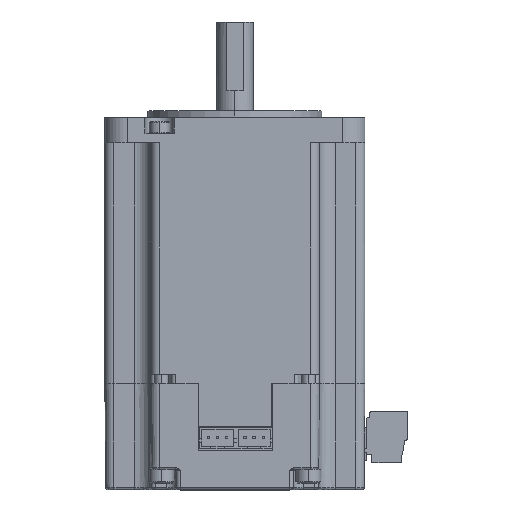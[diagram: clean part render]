
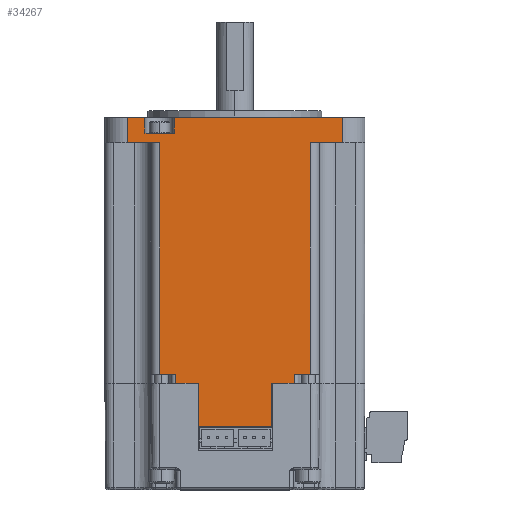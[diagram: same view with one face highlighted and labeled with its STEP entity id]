
A CAD part, top view. The second image highlights one B-rep face of the part: STEP entity #34267.
In plain terms, the highlighted planar face has unit normal (0, 0, 1).
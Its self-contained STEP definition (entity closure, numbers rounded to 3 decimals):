
#154=DIRECTION('',(1.,0.,0.));
#155=VECTOR('',#154,4.8);
#156=CARTESIAN_POINT('',(15.5,-58.25,0.));
#157=LINE('',#156,#155);
#158=DIRECTION('',(-1.,0.,0.));
#159=VECTOR('',#158,3.87);
#160=CARTESIAN_POINT('',(8.8,0.,0.));
#161=LINE('',#160,#159);
#162=DIRECTION('',(0.,-1.,0.));
#163=VECTOR('',#162,3.4);
#164=CARTESIAN_POINT('',(15.2,0.,0.));
#165=LINE('',#164,#163);
#166=DIRECTION('',(-1.,0.,0.));
#167=VECTOR('',#166,36.87);
#168=CARTESIAN_POINT('',(52.07,0.,0.));
#169=LINE('',#168,#167);
#170=DIRECTION('',(-1.,0.,0.));
#171=VECTOR('',#170,4.55);
#172=CARTESIAN_POINT('',(41.5,-58.25,0.));
#173=LINE('',#172,#171);
#174=DIRECTION('',(1.,0.,0.));
#175=VECTOR('',#174,0.35);
#176=CARTESIAN_POINT('',(36.6,-58.25,0.));
#177=LINE('',#176,#175);
#178=DIRECTION('',(0.,-1.,0.));
#179=VECTOR('',#178,9.5);
#180=CARTESIAN_POINT('',(20.6,-58.25,0.));
#181=LINE('',#180,#179);
#182=DIRECTION('',(1.,0.,0.));
#183=VECTOR('',#182,0.3);
#184=CARTESIAN_POINT('',(20.3,-58.25,0.));
#185=LINE('',#184,#183);
#286=DIRECTION('',(-1.,0.,0.));
#287=VECTOR('',#286,16.);
#288=CARTESIAN_POINT('',(36.6,-67.75,0.));
#289=LINE('',#288,#287);
#310=DIRECTION('',(0.,-1.,0.));
#311=VECTOR('',#310,9.5);
#312=CARTESIAN_POINT('',(36.6,-58.25,0.));
#313=LINE('',#312,#311);
#1569=DIRECTION('',(0.,1.,0.));
#1570=VECTOR('',#1569,2.);
#1571=CARTESIAN_POINT('',(41.5,-58.25,0.));
#1572=LINE('',#1571,#1570);
#1591=DIRECTION('',(-1.,0.,0.));
#1592=VECTOR('',#1591,3.5);
#1593=CARTESIAN_POINT('',(15.5,-56.25,0.));
#1594=LINE('',#1593,#1592);
#1720=DIRECTION('',(-1.,0.,0.));
#1721=VECTOR('',#1720,3.5);
#1722=CARTESIAN_POINT('',(45.,-56.25,0.));
#1723=LINE('',#1722,#1721);
#1787=DIRECTION('',(0.,-1.,0.));
#1788=VECTOR('',#1787,50.75);
#1789=CARTESIAN_POINT('',(12.,-5.5,0.));
#1790=LINE('',#1789,#1788);
#1810=DIRECTION('',(-1.,0.,0.));
#1811=VECTOR('',#1810,7.07);
#1812=CARTESIAN_POINT('',(12.,-5.5,0.));
#1813=LINE('',#1812,#1811);
#2291=DIRECTION('',(-1.,0.,0.));
#2292=VECTOR('',#2291,7.07);
#2293=CARTESIAN_POINT('',(52.07,-5.5,0.));
#2294=LINE('',#2293,#2292);
#2324=DIRECTION('',(0.,1.,0.));
#2325=VECTOR('',#2324,50.75);
#2326=CARTESIAN_POINT('',(45.,-56.25,0.));
#2327=LINE('',#2326,#2325);
#2328=DIRECTION('',(0.,1.,0.));
#2329=VECTOR('',#2328,5.5);
#2330=CARTESIAN_POINT('',(52.07,-5.5,0.));
#2331=LINE('',#2330,#2329);
#10785=DIRECTION('',(0.,-1.,0.));
#10786=VECTOR('',#10785,2.);
#10787=CARTESIAN_POINT('',(15.5,-56.25,0.));
#10788=LINE('',#10787,#10786);
#18057=DIRECTION('',(0.,-1.,0.));
#18058=VECTOR('',#18057,5.5);
#18059=CARTESIAN_POINT('',(4.93,0.,0.));
#18060=LINE('',#18059,#18058);
#26906=DIRECTION('',(0.,1.,0.));
#26907=VECTOR('',#26906,3.4);
#26908=CARTESIAN_POINT('',(8.8,-3.4,0.));
#26909=LINE('',#26908,#26907);
#26919=DIRECTION('',(-1.,0.,0.));
#26920=VECTOR('',#26919,6.4);
#26921=CARTESIAN_POINT('',(15.2,-3.4,0.));
#26922=LINE('',#26921,#26920);
#28853=CARTESIAN_POINT('',(15.2,0.,0.));
#28854=VERTEX_POINT('',#28853);
#28855=CARTESIAN_POINT('',(52.07,0.,0.));
#28856=VERTEX_POINT('',#28855);
#28895=CARTESIAN_POINT('',(4.93,0.,0.));
#28896=VERTEX_POINT('',#28895);
#28897=CARTESIAN_POINT('',(8.8,0.,0.));
#28898=VERTEX_POINT('',#28897);
#28919=CARTESIAN_POINT('',(15.2,-3.4,0.));
#28920=VERTEX_POINT('',#28919);
#28921=CARTESIAN_POINT('',(52.07,-5.5,0.));
#28922=CARTESIAN_POINT('',(45.,-5.5,0.));
#28923=VERTEX_POINT('',#28921);
#28924=VERTEX_POINT('',#28922);
#28925=CARTESIAN_POINT('',(45.,-56.25,0.));
#28926=VERTEX_POINT('',#28925);
#28927=CARTESIAN_POINT('',(12.,-5.5,0.));
#28928=CARTESIAN_POINT('',(12.,-56.25,0.));
#28929=VERTEX_POINT('',#28927);
#28930=VERTEX_POINT('',#28928);
#28931=CARTESIAN_POINT('',(4.93,-5.5,0.));
#28932=VERTEX_POINT('',#28931);
#28933=CARTESIAN_POINT('',(8.8,-3.4,0.));
#28934=VERTEX_POINT('',#28933);
#29394=CARTESIAN_POINT('',(20.6,-58.25,0.));
#29396=VERTEX_POINT('',#29394);
#29403=CARTESIAN_POINT('',(36.6,-58.25,0.));
#29405=VERTEX_POINT('',#29403);
#29808=CARTESIAN_POINT('',(20.6,-67.75,0.));
#29809=VERTEX_POINT('',#29808);
#29810=CARTESIAN_POINT('',(36.6,-67.75,0.));
#29811=VERTEX_POINT('',#29810);
#33570=CARTESIAN_POINT('',(15.5,-56.25,0.));
#33572=VERTEX_POINT('',#33570);
#33576=CARTESIAN_POINT('',(41.5,-56.25,0.));
#33578=VERTEX_POINT('',#33576);
#33590=CARTESIAN_POINT('',(15.5,-58.25,0.));
#33591=CARTESIAN_POINT('',(20.3,-58.25,0.));
#33592=VERTEX_POINT('',#33590);
#33593=VERTEX_POINT('',#33591);
#33594=CARTESIAN_POINT('',(41.5,-58.25,0.));
#33595=CARTESIAN_POINT('',(36.95,-58.25,0.));
#33596=VERTEX_POINT('',#33594);
#33597=VERTEX_POINT('',#33595);
#34219=CARTESIAN_POINT('',(28.5,-28.125,0.));
#34220=DIRECTION('',(0.,0.,1.));
#34221=DIRECTION('',(1.,0.,0.));
#34222=AXIS2_PLACEMENT_3D('',#34219,#34220,#34221);
#34223=PLANE('',#34222);
#34225=ORIENTED_EDGE('',*,*,#34224,.F.);
#34227=ORIENTED_EDGE('',*,*,#34226,.F.);
#34229=ORIENTED_EDGE('',*,*,#34228,.T.);
#34231=ORIENTED_EDGE('',*,*,#34230,.F.);
#34233=ORIENTED_EDGE('',*,*,#34232,.T.);
#34235=ORIENTED_EDGE('',*,*,#34234,.F.);
#34236=ORIENTED_EDGE('',*,*,#34092,.F.);
#34238=ORIENTED_EDGE('',*,*,#34237,.F.);
#34240=ORIENTED_EDGE('',*,*,#34239,.F.);
#34241=ORIENTED_EDGE('',*,*,#34204,.F.);
#34242=ORIENTED_EDGE('',*,*,#34134,.F.);
#34244=ORIENTED_EDGE('',*,*,#34243,.F.);
#34246=ORIENTED_EDGE('',*,*,#34245,.T.);
#34248=ORIENTED_EDGE('',*,*,#34247,.F.);
#34250=ORIENTED_EDGE('',*,*,#34249,.T.);
#34252=ORIENTED_EDGE('',*,*,#34251,.F.);
#34254=ORIENTED_EDGE('',*,*,#34253,.T.);
#34256=ORIENTED_EDGE('',*,*,#34255,.F.);
#34258=ORIENTED_EDGE('',*,*,#34257,.T.);
#34260=ORIENTED_EDGE('',*,*,#34259,.T.);
#34262=ORIENTED_EDGE('',*,*,#34261,.F.);
#34264=ORIENTED_EDGE('',*,*,#34263,.F.);
#34265=EDGE_LOOP('',(#34225,#34227,#34229,#34231,#34233,#34235,#34236,#34238,
#34240,#34241,#34242,#34244,#34246,#34248,#34250,#34252,#34254,#34256,#34258,
#34260,#34262,#34264));
#34266=FACE_OUTER_BOUND('',#34265,.F.);
#34267=ADVANCED_FACE('',(#34266),#34223,.T.);
#34092=EDGE_CURVE('',#28898,#28896,#161,.T.);
#34134=EDGE_CURVE('',#28856,#28854,#169,.T.);
#34204=EDGE_CURVE('',#28854,#28920,#165,.T.);
#34224=EDGE_CURVE('',#33592,#33593,#157,.T.);
#34226=EDGE_CURVE('',#33572,#33592,#10788,.T.);
#34228=EDGE_CURVE('',#33572,#28930,#1594,.T.);
#34230=EDGE_CURVE('',#28929,#28930,#1790,.T.);
#34232=EDGE_CURVE('',#28929,#28932,#1813,.T.);
#34234=EDGE_CURVE('',#28896,#28932,#18060,.T.);
#34237=EDGE_CURVE('',#28934,#28898,#26909,.T.);
#34239=EDGE_CURVE('',#28920,#28934,#26922,.T.);
#34243=EDGE_CURVE('',#28923,#28856,#2331,.T.);
#34245=EDGE_CURVE('',#28923,#28924,#2294,.T.);
#34247=EDGE_CURVE('',#28926,#28924,#2327,.T.);
#34249=EDGE_CURVE('',#28926,#33578,#1723,.T.);
#34251=EDGE_CURVE('',#33596,#33578,#1572,.T.);
#34253=EDGE_CURVE('',#33596,#33597,#173,.T.);
#34255=EDGE_CURVE('',#29405,#33597,#177,.T.);
#34257=EDGE_CURVE('',#29405,#29811,#313,.T.);
#34259=EDGE_CURVE('',#29811,#29809,#289,.T.);
#34261=EDGE_CURVE('',#29396,#29809,#181,.T.);
#34263=EDGE_CURVE('',#33593,#29396,#185,.T.);
